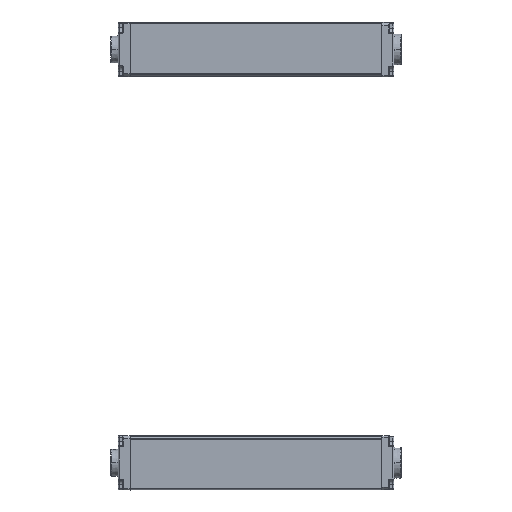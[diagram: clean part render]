
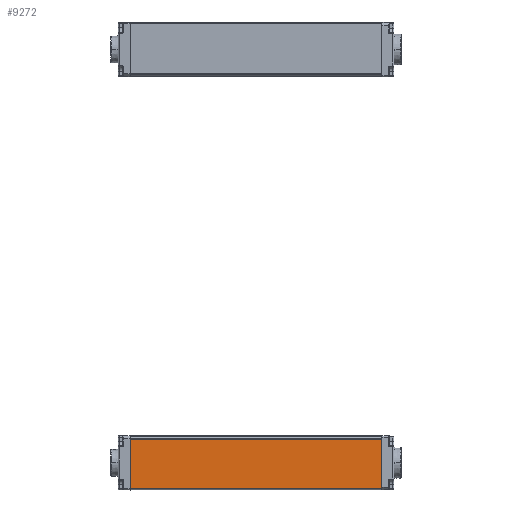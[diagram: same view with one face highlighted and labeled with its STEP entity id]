
A CAD part, left-side view. The second image highlights one B-rep face of the part: STEP entity #9272.
In plain terms, the highlighted planar face has unit normal (-1, 0, -0.009) as drawn and (1, 0, 0) by its records, which use the part's own axes.
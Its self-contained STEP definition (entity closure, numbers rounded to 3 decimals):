
#9 = EDGE_CURVE ( 'NONE', #17359, #10907, #9714, .T. ) ;
#25 = CARTESIAN_POINT ( 'NONE',  ( 15., 140., -16.693 ) ) ;
#813 = CARTESIAN_POINT ( 'NONE',  ( 15., 0., -16.9 ) ) ;
#968 = CARTESIAN_POINT ( 'NONE',  ( 15., 140., -16.693 ) ) ;
#1245 = VECTOR ( 'NONE', #16821, 1000. ) ;
#1707 = ORIENTED_EDGE ( 'NONE', *, *, #8168, .F. ) ;
#1814 = AXIS2_PLACEMENT_3D ( 'NONE', #16116, #3637, #9220 ) ;
#1886 = VERTEX_POINT ( 'NONE', #10140 ) ;
#2769 = DIRECTION ( 'NONE',  ( 0., -1., 0. ) ) ;
#2875 = VECTOR ( 'NONE', #2769, 1000. ) ;
#2961 = VECTOR ( 'NONE', #6361, 1000. ) ;
#3637 = DIRECTION ( 'NONE',  ( -1., 0., 0. ) ) ;
#4152 = ORIENTED_EDGE ( 'NONE', *, *, #9, .T. ) ;
#4872 = CARTESIAN_POINT ( 'NONE',  ( 15., 0., 10.9 ) ) ;
#4977 = FACE_OUTER_BOUND ( 'NONE', #14244, .T. ) ;
#5706 = LINE ( 'NONE', #11275, #1245 ) ;
#6361 = DIRECTION ( 'NONE',  ( 0., 0., -1. ) ) ;
#6497 = EDGE_CURVE ( 'NONE', #1886, #10280, #13448, .T. ) ;
#6519 = DIRECTION ( 'NONE',  ( 0., 1., 0. ) ) ;
#6953 = VECTOR ( 'NONE', #6519, 1000. ) ;
#8168 = EDGE_CURVE ( 'NONE', #17359, #10280, #5706, .T. ) ;
#9220 = DIRECTION ( 'NONE',  ( 0., 0., 1. ) ) ;
#9272 = ADVANCED_FACE ( 'NONE', ( #4977 ), #10574, .F. ) ;
#9560 = CARTESIAN_POINT ( 'NONE',  ( 15., 140., 10.9 ) ) ;
#9714 = LINE ( 'NONE', #15249, #2875 ) ;
#10140 = CARTESIAN_POINT ( 'NONE',  ( 15., 0., -16.693 ) ) ;
#10280 = VERTEX_POINT ( 'NONE', #25 ) ;
#10574 = PLANE ( 'NONE',  #1814 ) ;
#10907 = VERTEX_POINT ( 'NONE', #4872 ) ;
#11275 = CARTESIAN_POINT ( 'NONE',  ( 15., 140., -16.9 ) ) ;
#12094 = ORIENTED_EDGE ( 'NONE', *, *, #13496, .T. ) ;
#12408 = ORIENTED_EDGE ( 'NONE', *, *, #6497, .T. ) ;
#13302 = LINE ( 'NONE', #813, #2961 ) ;
#13448 = LINE ( 'NONE', #968, #6953 ) ;
#13496 = EDGE_CURVE ( 'NONE', #10907, #1886, #13302, .T. ) ;
#14244 = EDGE_LOOP ( 'NONE', ( #12094, #12408, #1707, #4152 ) ) ;
#15249 = CARTESIAN_POINT ( 'NONE',  ( 15., 140., 10.9 ) ) ;
#16116 = CARTESIAN_POINT ( 'NONE',  ( 15., 140., -16.9 ) ) ;
#16821 = DIRECTION ( 'NONE',  ( 0., 0., -1. ) ) ;
#17359 = VERTEX_POINT ( 'NONE', #9560 ) ;
